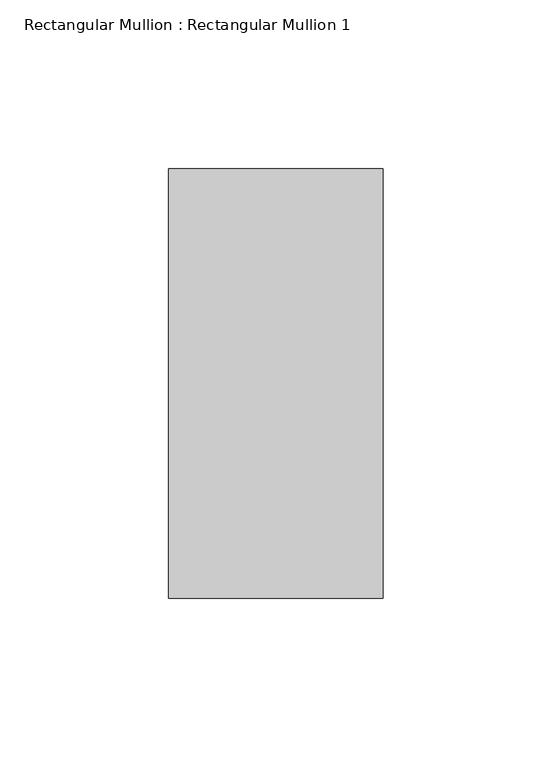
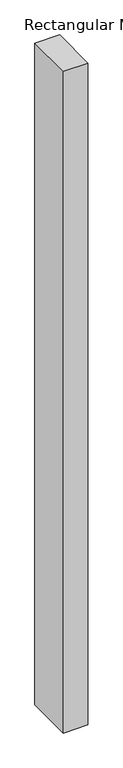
"""IFC4 building model written with IfcOpenShell, lengths in millimetres: member geometry, Rectangular Mullion : Rectangular Mullion 1."""

from ifc_helpers import new_model, si_unit, frame, origin, place, context, project, spatial, polyline, outline, extrude, source, transform, mapped, element, save


def rectangular_mullion_rectangular_mullion_1_45eb5bec(model_context):
    return source(origin(), model_context, "Body", "SweptSolid", [
        extrude(outline(polyline([(31.75, 63.5), (31.75, -63.5), (-31.75, -63.5), (-31.75, 63.5), (31.75, 63.5)])), frame((0.0, 0.0, -1804.7500002), z_axis=(0.0, 0.0, 1.0), x_axis=(1.0, 0.0, 0.0)), (0.0, 0.0, 1.0), 1804.7500002),
    ])


if __name__ == "__main__":
    model = new_model("IFC4")
    model_context = context("Model", 3, world=origin())
    ifc_project = project(units=[si_unit("LENGTHUNIT", "METRE", prefix="MILLI")], contexts=[model_context])
    site = spatial("IfcSite", under=ifc_project)
    building = spatial("IfcBuilding", under=site)
    placement = place(None, origin())
    rectangular_mullion_rectangular_mullion_1_shape = rectangular_mullion_rectangular_mullion_1_45eb5bec(model_context)
    element("IfcMember", 1, ObjectType="Rectangular Mullion : Rectangular Mullion 1", at=placement, inside=building, context=model_context, shape_type="MappedRepresentation", body=[
        mapped(rectangular_mullion_rectangular_mullion_1_shape, transform((0.0, 0.0, 0.0), x_axis=(1.0, 0.0, 0.0), y_axis=(0.0, 1.0, 0.0), z_axis=(0.0, 0.0, 1.0))),
    ])
    save(model, "model.ifc")
